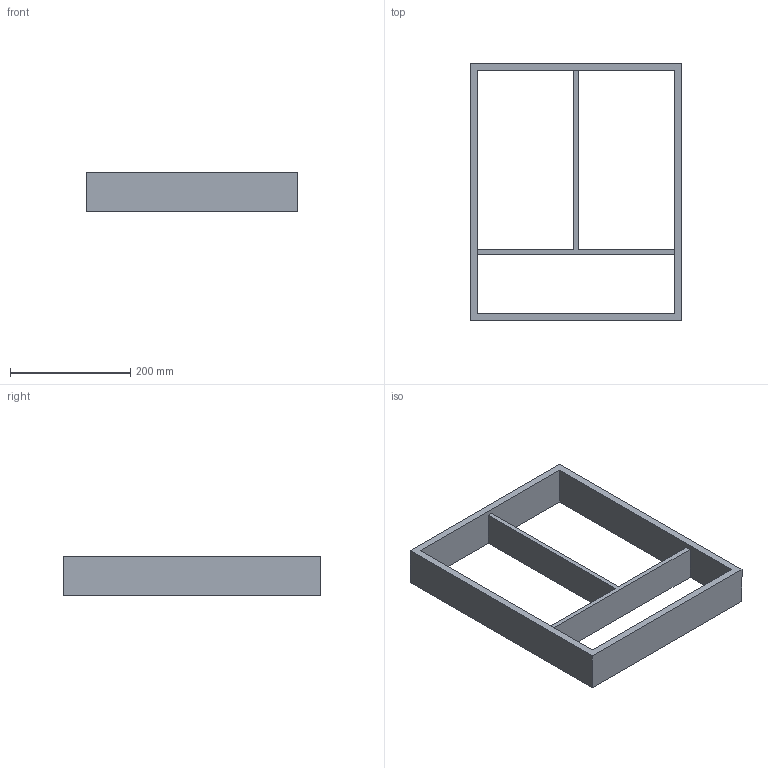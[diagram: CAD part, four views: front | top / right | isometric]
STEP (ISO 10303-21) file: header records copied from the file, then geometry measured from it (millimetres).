
FILE_DESCRIPTION (( 'STEP AP214' ), '1' );
FILE_NAME ('Vario Multi NL450_B450_19 mm_Buche.step', '2010-10-07T06:24:20', ( 'grass' ), ( '' ), 'SwSTEP 2.0', 'SolidWorks 2010', '' );
FILE_SCHEMA (( 'AUTOMOTIVE_DESIGN' ));
Length unit declared in the file: millimetre
Products named in the file (1): Vario Multi NL450_B450_19 mm_Buche
Bounding box: 352 x 429 x 65 mm (x, y, z)
Volume: 1466740.8 mm3; surface area: 312816 mm2
Topology: 1 solids, 1 shells, 16 faces, 48 edges, 32 vertices
Faces by surface type: plane 16
Entity records: 578 total; most frequent: CARTESIAN_POINT 97, ORIENTED_EDGE 96, DIRECTION 82, EDGE_CURVE 48, LINE 48, VECTOR 48, VERTEX_POINT 32, EDGE_LOOP 20
